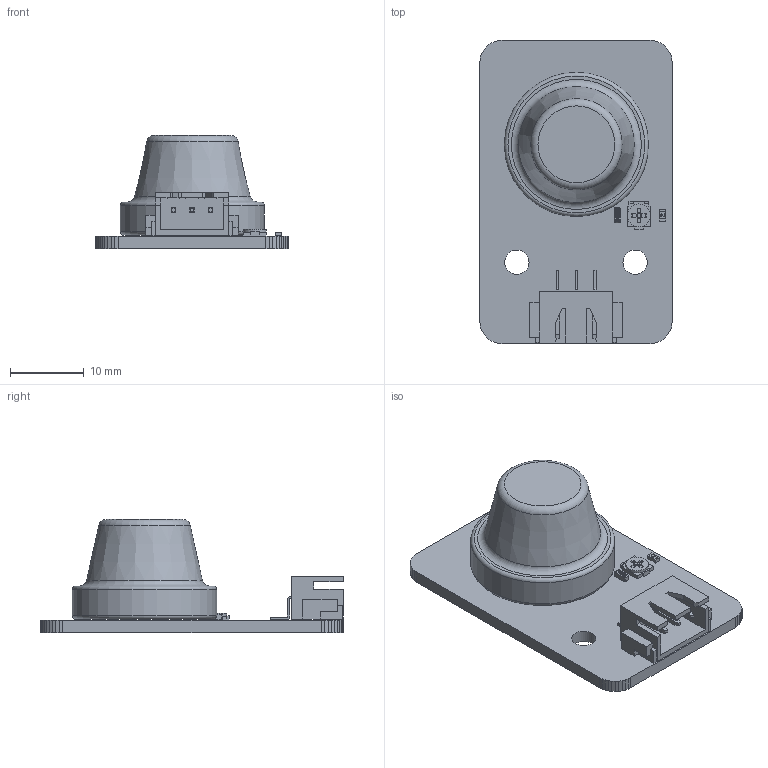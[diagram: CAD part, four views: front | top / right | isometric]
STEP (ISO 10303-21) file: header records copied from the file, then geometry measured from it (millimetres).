
FILE_DESCRIPTION(('Open CASCADE Model'),'2;1');
FILE_NAME('Open CASCADE Shape Model','2021-11-22T16:30:20',('Author'),( 'Open CASCADE'),'Open CASCADE STEP processor 6.5','Open CASCADE 6.5' ,'Unknown');
FILE_SCHEMA(('AUTOMOTIVE_DESIGN { 1 0 10303 214 1 1 1 1 }'));
Length unit declared in the file: millimetre
Products named in the file (12): PCB; Board; C1; User_Library-0603(1608M)_Cap; R2; 0603_R; *1; 錨璃1; P1; 3pin-2.5; R1; 3302
Assembly tree (11 placements, depth 3):
  PCB
    Board
    C1
      User_Library-0603(1608M)_Cap
    R2
      0603_R
    *1
      錨璃1
    P1
      3pin-2.5
    R1
      3302
Bounding box: 26.02 x 41.02 x 15.29 mm (x, y, z)
Volume: 4674.1 mm3; surface area: 4160.8 mm2
Topology: 12 solids, 12 shells, 444 faces, 1150 edges, 742 vertices
Faces by surface type: plane 307, bspline 72, cylinder 53, torus 6, extrusion 5, cone 1
Full cylindrical faces by diameter (mm): 1.2 x6, 3.3 x2, 19.5 x1
Entity records: 36085 total; most frequent: CARTESIAN_POINT 11869, DIRECTION 3468, VECTOR 2451, LINE 2446, ORIENTED_EDGE 2284, PCURVE 2284, DEFINITIONAL_REPRESENTATION 2284, EDGE_CURVE 1142
